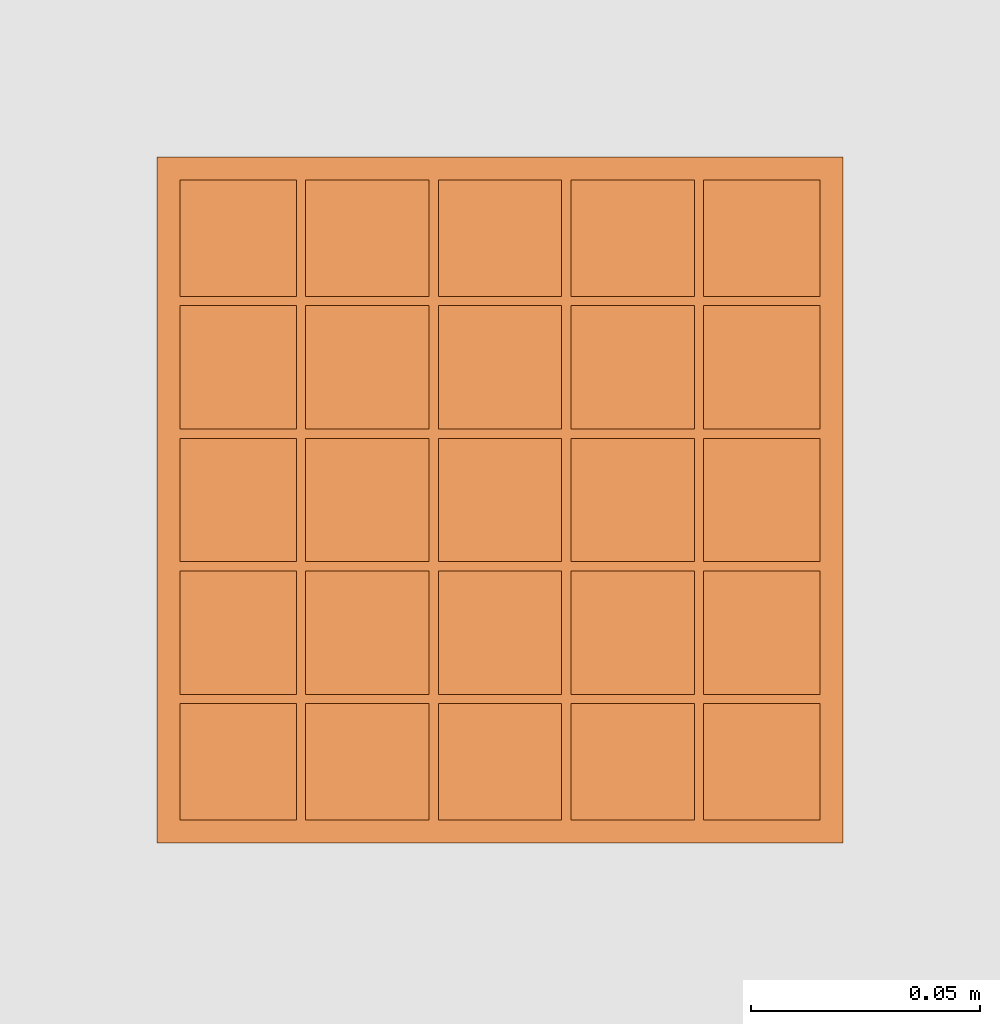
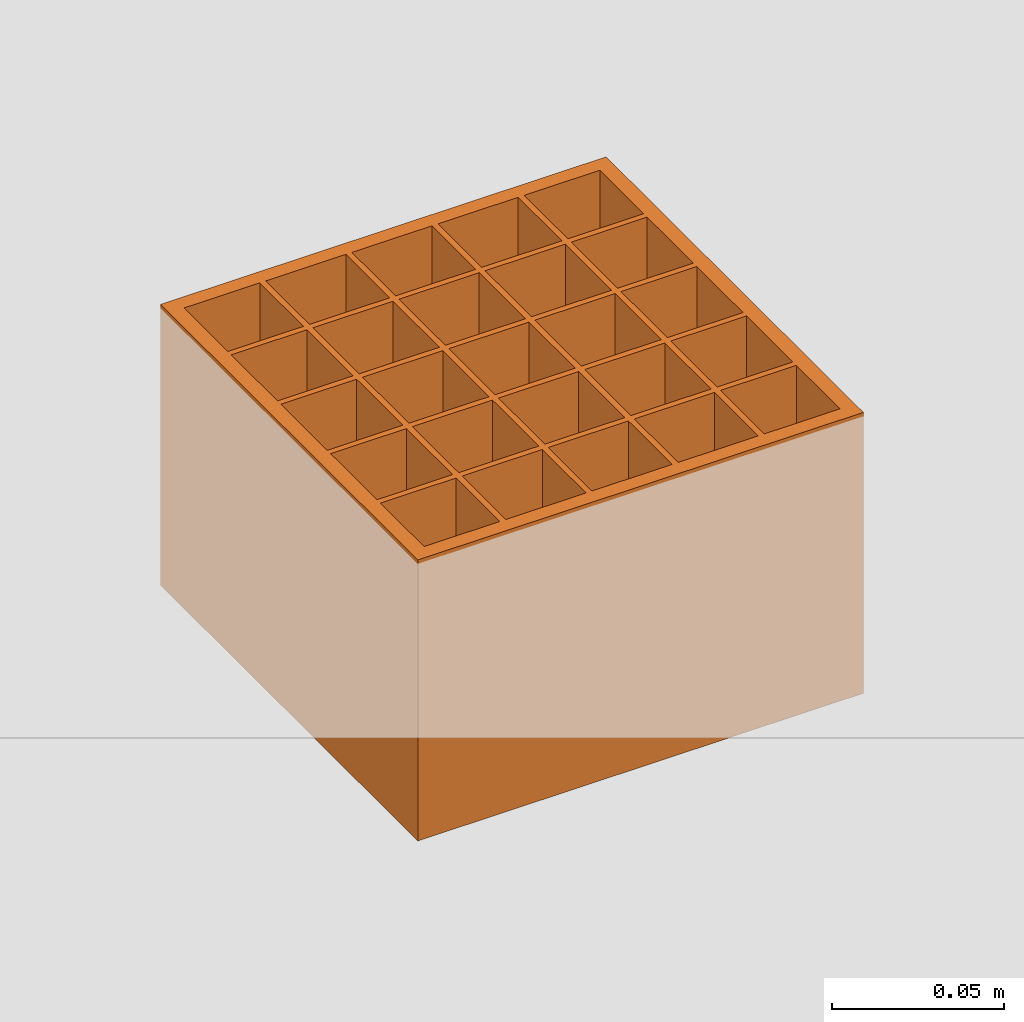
# One storey, part 87 of 112: 1 proxy.
"""IFC2X3 building model written with IfcOpenShell, lengths in millimetres."""

from ifc_helpers import new_model, entity, si_unit, converted_unit, derived_unit, money_unit, direction, frame, origin_with_axes, place, context, subcontext, project, spatial, faceted_brep, source, transform, mapped, type_object, element, save


model = new_model("IFC2X3")

# Units and contexts
model_context = context("Model", 3, precision=0.01, world=origin_with_axes(), true_north=direction((0.0, 1.0)))
body_context = subcontext(model_context, "Body", "Model", "MODEL_VIEW")
ifc_project = project(units=[si_unit("LENGTHUNIT", "METRE", prefix="MILLI"), si_unit("AREAUNIT", "SQUARE_METRE"), si_unit("VOLUMEUNIT", "CUBIC_METRE"), converted_unit("PLANEANGLEUNIT", "DEGREE", entity("IfcPlaneAngleMeasure", 0.0174532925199), si_unit("PLANEANGLEUNIT", "RADIAN"), dimensions=[0, 0, 0, 0, 0, 0, 0]), si_unit("SOLIDANGLEUNIT", "STERADIAN"), money_unit("EUR"), converted_unit("TIMEUNIT", "Year", entity("IfcTimeMeasure", 31556926.0), si_unit("TIMEUNIT", "SECOND"), dimensions=[0, 0, 1, 0, 0, 0, 0]), si_unit("MASSUNIT", "GRAM", prefix="KILO"), si_unit("THERMODYNAMICTEMPERATUREUNIT", "DEGREE_CELSIUS"), si_unit("LUMINOUSINTENSITYUNIT", "LUMEN"), si_unit("ENERGYUNIT", "JOULE", prefix="MEGA"), derived_unit("THERMALCONDUCTANCEUNIT", [(si_unit("POWERUNIT", "WATT"), 1), (si_unit("LENGTHUNIT", "METRE"), -1), (si_unit("THERMODYNAMICTEMPERATUREUNIT", "KELVIN"), -1)]), derived_unit("SPECIFICHEATCAPACITYUNIT", [(si_unit("ENERGYUNIT", "JOULE"), 1), (si_unit("MASSUNIT", "GRAM", prefix="KILO"), -1), (si_unit("THERMODYNAMICTEMPERATUREUNIT", "KELVIN"), -1)]), derived_unit("MASSDENSITYUNIT", [(si_unit("MASSUNIT", "GRAM", prefix="KILO"), 1), (si_unit("VOLUMEUNIT", "CUBIC_METRE"), -1)])], contexts=[model_context])

# Site, building, storey
site_placement = place(None, origin_with_axes())
site = spatial("IfcSite", under=ifc_project, at=site_placement, Name="Politse- ja Piirivalveameti ning Päästeameti ühishoone", CompositionType="ELEMENT")
building_placement = place(site_placement, origin_with_axes())
building = spatial("IfcBuilding", under=site, at=building_placement, Name="Politse- ja Piirivalveameti ning Päästeameti ühishoone", CompositionType="ELEMENT")
storey_placement = place(building_placement, origin_with_axes())
storey = spatial("IfcBuildingStorey", under=building, at=storey_placement, Name="Esimene korrus", CompositionType="ELEMENT", Elevation=0.0)

# Proxy
building_element_proxy_type = type_object("IfcBuildingElementProxyType", Name="Grid 23", PredefinedType="NOTDEFINED")
shared_shape = source(origin_with_axes(), body_context, "Body", "Brep", [
    faceted_brep([(0.0, 0.0, 0.0), (5.0, 5.0, 0.0), (5.0, 5.0, 100.0), (0.0, 0.0, 100.0), (0.0, 150.0, 0.0), (5.0, 145.0, 0.0), (5.0, 119.5, 0.0), (5.0, 117.5, 0.0), (5.0, 90.5, 0.0), (5.0, 88.5, 0.0), (5.0, 61.5, 0.0), (5.0, 59.5, 0.0), (5.0, 32.5, 0.0), (5.0, 30.5, 0.0), (5.0, 30.5, 100.0), (5.0, 32.5, 100.0), (5.0, 59.5, 100.0), (5.0, 61.5, 100.0), (5.0, 88.5, 100.0), (5.0, 90.5, 100.0), (5.0, 117.5, 100.0), (5.0, 119.5, 100.0), (5.0, 145.0, 100.0), (0.0, 150.0, 100.0)], [[[0, 1, 2, 3]], [[0, 4, 5, 6, 7, 8, 9, 10, 11, 12, 13, 1]], [[1, 13, 14, 2]], [[3, 2, 14, 15, 16, 17, 18, 19, 20, 21, 22, 23]], [[4, 0, 3, 23]], [[5, 4, 23, 22]], [[6, 5, 22, 21]], [[7, 6, 21, 20]], [[8, 7, 20, 19]], [[9, 8, 19, 18]], [[10, 9, 18, 17]], [[11, 10, 17, 16]], [[12, 11, 16, 15]], [[13, 12, 15, 14]]]),
    faceted_brep([(150.0, 150.0, 0.0), (145.0, 145.0, 0.0), (145.0, 145.0, 100.0), (150.0, 150.0, 100.0), (150.0, 0.0, 0.0), (145.0, 5.0, 0.0), (145.0, 30.5, 0.0), (145.0, 32.5, 0.0), (145.0, 59.5, 0.0), (145.0, 61.5, 0.0), (145.0, 88.5, 0.0), (145.0, 90.5, 0.0), (145.0, 117.5, 0.0), (145.0, 119.5, 0.0), (145.0, 119.5, 100.0), (145.0, 117.5, 100.0), (145.0, 90.5, 100.0), (145.0, 88.5, 100.0), (145.0, 61.5, 100.0), (145.0, 59.5, 100.0), (145.0, 32.5, 100.0), (145.0, 30.5, 100.0), (145.0, 5.0, 100.0), (150.0, 0.0, 100.0)], [[[0, 1, 2, 3]], [[0, 4, 5, 6, 7, 8, 9, 10, 11, 12, 13, 1]], [[1, 13, 14, 2]], [[3, 2, 14, 15, 16, 17, 18, 19, 20, 21, 22, 23]], [[4, 0, 3, 23]], [[5, 4, 23, 22]], [[6, 5, 22, 21]], [[7, 6, 21, 20]], [[8, 7, 20, 19]], [[9, 8, 19, 18]], [[10, 9, 18, 17]], [[11, 10, 17, 16]], [[12, 11, 16, 15]], [[13, 12, 15, 14]]]),
    faceted_brep([(150.0, 0.0, 0.0), (145.0, 5.0, 0.0), (145.0, 5.0, 100.0), (150.0, 0.0, 100.0), (0.0, 0.0, 0.0), (5.0, 5.0, 0.0), (30.5, 5.0, 0.0), (32.5, 5.0, 0.0), (59.5, 5.0, 0.0), (61.5, 5.0, 0.0), (88.5, 5.0, 0.0), (90.5, 5.0, 0.0), (117.5, 5.0, 0.0), (119.5, 5.0, 0.0), (119.5, 5.0, 100.0), (117.5, 5.0, 100.0), (90.5, 5.0, 100.0), (88.5, 5.0, 100.0), (61.5, 5.0, 100.0), (59.5, 5.0, 100.0), (32.5, 5.0, 100.0), (30.5, 5.0, 100.0), (5.0, 5.0, 100.0), (0.0, 0.0, 100.0)], [[[0, 1, 2, 3]], [[0, 4, 5, 6, 7, 8, 9, 10, 11, 12, 13, 1]], [[1, 13, 14, 2]], [[3, 2, 14, 15, 16, 17, 18, 19, 20, 21, 22, 23]], [[4, 0, 3, 23]], [[5, 4, 23, 22]], [[6, 5, 22, 21]], [[7, 6, 21, 20]], [[8, 7, 20, 19]], [[9, 8, 19, 18]], [[10, 9, 18, 17]], [[11, 10, 17, 16]], [[12, 11, 16, 15]], [[13, 12, 15, 14]]]),
    faceted_brep([(0.0, 150.0, 0.0), (5.0, 145.0, 0.0), (5.0, 145.0, 100.0), (0.0, 150.0, 100.0), (150.0, 150.0, 0.0), (145.0, 145.0, 0.0), (119.5, 145.0, 0.0), (117.5, 145.0, 0.0), (90.5, 145.0, 0.0), (88.5, 145.0, 0.0), (61.5, 145.0, 0.0), (59.5, 145.0, 0.0), (32.5, 145.0, 0.0), (30.5, 145.0, 0.0), (30.5, 145.0, 100.0), (32.5, 145.0, 100.0), (59.5, 145.0, 100.0), (61.5, 145.0, 100.0), (88.5, 145.0, 100.0), (90.5, 145.0, 100.0), (117.5, 145.0, 100.0), (119.5, 145.0, 100.0), (145.0, 145.0, 100.0), (150.0, 150.0, 100.0)], [[[0, 1, 2, 3]], [[0, 4, 5, 6, 7, 8, 9, 10, 11, 12, 13, 1]], [[1, 13, 14, 2]], [[3, 2, 14, 15, 16, 17, 18, 19, 20, 21, 22, 23]], [[4, 0, 3, 23]], [[5, 4, 23, 22]], [[6, 5, 22, 21]], [[7, 6, 21, 20]], [[8, 7, 20, 19]], [[9, 8, 19, 18]], [[10, 9, 18, 17]], [[11, 10, 17, 16]], [[12, 11, 16, 15]], [[13, 12, 15, 14]]]),
    faceted_brep([(30.5, 5.0, 0.0), (32.5, 5.0, 0.0), (32.5, 5.0, 100.0), (30.5, 5.0, 100.0), (30.5, 30.5, 0.0), (30.5, 32.5, 0.0), (30.5, 59.5, 0.0), (30.5, 61.5, 0.0), (30.5, 88.5, 0.0), (30.5, 90.5, 0.0), (30.5, 117.5, 0.0), (30.5, 119.5, 0.0), (30.5, 145.0, 0.0), (32.5, 145.0, 0.0), (32.5, 119.5, 0.0), (32.5, 117.5, 0.0), (32.5, 90.5, 0.0), (32.5, 88.5, 0.0), (32.5, 61.5, 0.0), (32.5, 59.5, 0.0), (32.5, 32.5, 0.0), (32.5, 30.5, 0.0), (32.5, 30.5, 100.0), (32.5, 32.5, 100.0), (32.5, 59.5, 100.0), (32.5, 61.5, 100.0), (32.5, 88.5, 100.0), (32.5, 90.5, 100.0), (32.5, 117.5, 100.0), (32.5, 119.5, 100.0), (32.5, 145.0, 100.0), (30.5, 145.0, 100.0), (30.5, 119.5, 100.0), (30.5, 117.5, 100.0), (30.5, 90.5, 100.0), (30.5, 88.5, 100.0), (30.5, 61.5, 100.0), (30.5, 59.5, 100.0), (30.5, 32.5, 100.0), (30.5, 30.5, 100.0)], [[[0, 1, 2, 3]], [[0, 4, 5, 6, 7, 8, 9, 10, 11, 12, 13, 14, 15, 16, 17, 18, 19, 20, 21, 1]], [[1, 21, 22, 2]], [[3, 2, 22, 23, 24, 25, 26, 27, 28, 29, 30, 31, 32, 33, 34, 35, 36, 37, 38, 39]], [[4, 0, 3, 39]], [[5, 4, 39, 38]], [[6, 5, 38, 37]], [[7, 6, 37, 36]], [[8, 7, 36, 35]], [[9, 8, 35, 34]], [[10, 9, 34, 33]], [[11, 10, 33, 32]], [[12, 11, 32, 31]], [[13, 12, 31, 30]], [[14, 13, 30, 29]], [[15, 14, 29, 28]], [[16, 15, 28, 27]], [[17, 16, 27, 26]], [[18, 17, 26, 25]], [[19, 18, 25, 24]], [[20, 19, 24, 23]], [[21, 20, 23, 22]]]),
    faceted_brep([(59.5, 5.0, 0.0), (61.5, 5.0, 0.0), (61.5, 5.0, 100.0), (59.5, 5.0, 100.0), (59.5, 30.5, 0.0), (59.5, 32.5, 0.0), (59.5, 59.5, 0.0), (59.5, 61.5, 0.0), (59.5, 88.5, 0.0), (59.5, 90.5, 0.0), (59.5, 117.5, 0.0), (59.5, 119.5, 0.0), (59.5, 145.0, 0.0), (61.5, 145.0, 0.0), (61.5, 119.5, 0.0), (61.5, 117.5, 0.0), (61.5, 90.5, 0.0), (61.5, 88.5, 0.0), (61.5, 61.5, 0.0), (61.5, 59.5, 0.0), (61.5, 32.5, 0.0), (61.5, 30.5, 0.0), (61.5, 30.5, 100.0), (61.5, 32.5, 100.0), (61.5, 59.5, 100.0), (61.5, 61.5, 100.0), (61.5, 88.5, 100.0), (61.5, 90.5, 100.0), (61.5, 117.5, 100.0), (61.5, 119.5, 100.0), (61.5, 145.0, 100.0), (59.5, 145.0, 100.0), (59.5, 119.5, 100.0), (59.5, 117.5, 100.0), (59.5, 90.5, 100.0), (59.5, 88.5, 100.0), (59.5, 61.5, 100.0), (59.5, 59.5, 100.0), (59.5, 32.5, 100.0), (59.5, 30.5, 100.0)], [[[0, 1, 2, 3]], [[0, 4, 5, 6, 7, 8, 9, 10, 11, 12, 13, 14, 15, 16, 17, 18, 19, 20, 21, 1]], [[1, 21, 22, 2]], [[3, 2, 22, 23, 24, 25, 26, 27, 28, 29, 30, 31, 32, 33, 34, 35, 36, 37, 38, 39]], [[4, 0, 3, 39]], [[5, 4, 39, 38]], [[6, 5, 38, 37]], [[7, 6, 37, 36]], [[8, 7, 36, 35]], [[9, 8, 35, 34]], [[10, 9, 34, 33]], [[11, 10, 33, 32]], [[12, 11, 32, 31]], [[13, 12, 31, 30]], [[14, 13, 30, 29]], [[15, 14, 29, 28]], [[16, 15, 28, 27]], [[17, 16, 27, 26]], [[18, 17, 26, 25]], [[19, 18, 25, 24]], [[20, 19, 24, 23]], [[21, 20, 23, 22]]]),
    faceted_brep([(88.5, 5.0, 0.0), (90.5, 5.0, 0.0), (90.5, 5.0, 100.0), (88.5, 5.0, 100.0), (88.5, 30.5, 0.0), (88.5, 32.5, 0.0), (88.5, 59.5, 0.0), (88.5, 61.5, 0.0), (88.5, 88.5, 0.0), (88.5, 90.5, 0.0), (88.5, 117.5, 0.0), (88.5, 119.5, 0.0), (88.5, 145.0, 0.0), (90.5, 145.0, 0.0), (90.5, 119.5, 0.0), (90.5, 117.5, 0.0), (90.5, 90.5, 0.0), (90.5, 88.5, 0.0), (90.5, 61.5, 0.0), (90.5, 59.5, 0.0), (90.5, 32.5, 0.0), (90.5, 30.5, 0.0), (90.5, 30.5, 100.0), (90.5, 32.5, 100.0), (90.5, 59.5, 100.0), (90.5, 61.5, 100.0), (90.5, 88.5, 100.0), (90.5, 90.5, 100.0), (90.5, 117.5, 100.0), (90.5, 119.5, 100.0), (90.5, 145.0, 100.0), (88.5, 145.0, 100.0), (88.5, 119.5, 100.0), (88.5, 117.5, 100.0), (88.5, 90.5, 100.0), (88.5, 88.5, 100.0), (88.5, 61.5, 100.0), (88.5, 59.5, 100.0), (88.5, 32.5, 100.0), (88.5, 30.5, 100.0)], [[[0, 1, 2, 3]], [[0, 4, 5, 6, 7, 8, 9, 10, 11, 12, 13, 14, 15, 16, 17, 18, 19, 20, 21, 1]], [[1, 21, 22, 2]], [[3, 2, 22, 23, 24, 25, 26, 27, 28, 29, 30, 31, 32, 33, 34, 35, 36, 37, 38, 39]], [[4, 0, 3, 39]], [[5, 4, 39, 38]], [[6, 5, 38, 37]], [[7, 6, 37, 36]], [[8, 7, 36, 35]], [[9, 8, 35, 34]], [[10, 9, 34, 33]], [[11, 10, 33, 32]], [[12, 11, 32, 31]], [[13, 12, 31, 30]], [[14, 13, 30, 29]], [[15, 14, 29, 28]], [[16, 15, 28, 27]], [[17, 16, 27, 26]], [[18, 17, 26, 25]], [[19, 18, 25, 24]], [[20, 19, 24, 23]], [[21, 20, 23, 22]]]),
    faceted_brep([(117.5, 5.0, 0.0), (119.5, 5.0, 0.0), (119.5, 5.0, 100.0), (117.5, 5.0, 100.0), (117.5, 30.5, 0.0), (117.5, 32.5, 0.0), (117.5, 59.5, 0.0), (117.5, 61.5, 0.0), (117.5, 88.5, 0.0), (117.5, 90.5, 0.0), (117.5, 117.5, 0.0), (117.5, 119.5, 0.0), (117.5, 145.0, 0.0), (119.5, 145.0, 0.0), (119.5, 119.5, 0.0), (119.5, 117.5, 0.0), (119.5, 90.5, 0.0), (119.5, 88.5, 0.0), (119.5, 61.5, 0.0), (119.5, 59.5, 0.0), (119.5, 32.5, 0.0), (119.5, 30.5, 0.0), (119.5, 30.5, 100.0), (119.5, 32.5, 100.0), (119.5, 59.5, 100.0), (119.5, 61.5, 100.0), (119.5, 88.5, 100.0), (119.5, 90.5, 100.0), (119.5, 117.5, 100.0), (119.5, 119.5, 100.0), (119.5, 145.0, 100.0), (117.5, 145.0, 100.0), (117.5, 119.5, 100.0), (117.5, 117.5, 100.0), (117.5, 90.5, 100.0), (117.5, 88.5, 100.0), (117.5, 61.5, 100.0), (117.5, 59.5, 100.0), (117.5, 32.5, 100.0), (117.5, 30.5, 100.0)], [[[0, 1, 2, 3]], [[0, 4, 5, 6, 7, 8, 9, 10, 11, 12, 13, 14, 15, 16, 17, 18, 19, 20, 21, 1]], [[1, 21, 22, 2]], [[3, 2, 22, 23, 24, 25, 26, 27, 28, 29, 30, 31, 32, 33, 34, 35, 36, 37, 38, 39]], [[4, 0, 3, 39]], [[5, 4, 39, 38]], [[6, 5, 38, 37]], [[7, 6, 37, 36]], [[8, 7, 36, 35]], [[9, 8, 35, 34]], [[10, 9, 34, 33]], [[11, 10, 33, 32]], [[12, 11, 32, 31]], [[13, 12, 31, 30]], [[14, 13, 30, 29]], [[15, 14, 29, 28]], [[16, 15, 28, 27]], [[17, 16, 27, 26]], [[18, 17, 26, 25]], [[19, 18, 25, 24]], [[20, 19, 24, 23]], [[21, 20, 23, 22]]]),
    faceted_brep([(30.5, 30.5, 0.0), (30.5, 32.5, 0.0), (30.5, 32.5, 100.0), (30.5, 30.5, 100.0), (5.0, 30.5, 0.0), (5.0, 32.5, 0.0), (5.0, 32.5, 100.0), (5.0, 30.5, 100.0)], [[[0, 1, 2, 3]], [[0, 4, 5, 1]], [[1, 5, 6, 2]], [[3, 2, 6, 7]], [[4, 0, 3, 7]], [[5, 4, 7, 6]]]),
    faceted_brep([(30.5, 59.5, 0.0), (30.5, 61.5, 0.0), (30.5, 61.5, 100.0), (30.5, 59.5, 100.0), (5.0, 59.5, 0.0), (5.0, 61.5, 0.0), (5.0, 61.5, 100.0), (5.0, 59.5, 100.0)], [[[0, 1, 2, 3]], [[0, 4, 5, 1]], [[1, 5, 6, 2]], [[3, 2, 6, 7]], [[4, 0, 3, 7]], [[5, 4, 7, 6]]]),
    faceted_brep([(30.5, 88.5, 0.0), (30.5, 90.5, 0.0), (30.5, 90.5, 100.0), (30.5, 88.5, 100.0), (5.0, 88.5, 0.0), (5.0, 90.5, 0.0), (5.0, 90.5, 100.0), (5.0, 88.5, 100.0)], [[[0, 1, 2, 3]], [[0, 4, 5, 1]], [[1, 5, 6, 2]], [[3, 2, 6, 7]], [[4, 0, 3, 7]], [[5, 4, 7, 6]]]),
    faceted_brep([(30.5, 117.5, 0.0), (30.5, 119.5, 0.0), (30.5, 119.5, 100.0), (30.5, 117.5, 100.0), (5.0, 117.5, 0.0), (5.0, 119.5, 0.0), (5.0, 119.5, 100.0), (5.0, 117.5, 100.0)], [[[0, 1, 2, 3]], [[0, 4, 5, 1]], [[1, 5, 6, 2]], [[3, 2, 6, 7]], [[4, 0, 3, 7]], [[5, 4, 7, 6]]]),
    faceted_brep([(59.5, 30.5, 0.0), (59.5, 32.5, 0.0), (59.5, 32.5, 100.0), (59.5, 30.5, 100.0), (32.5, 30.5, 0.0), (32.5, 32.5, 0.0), (32.5, 32.5, 100.0), (32.5, 30.5, 100.0)], [[[0, 1, 2, 3]], [[0, 4, 5, 1]], [[1, 5, 6, 2]], [[3, 2, 6, 7]], [[4, 0, 3, 7]], [[5, 4, 7, 6]]]),
    faceted_brep([(59.5, 59.5, 0.0), (59.5, 61.5, 0.0), (59.5, 61.5, 100.0), (59.5, 59.5, 100.0), (32.5, 59.5, 0.0), (32.5, 61.5, 0.0), (32.5, 61.5, 100.0), (32.5, 59.5, 100.0)], [[[0, 1, 2, 3]], [[0, 4, 5, 1]], [[1, 5, 6, 2]], [[3, 2, 6, 7]], [[4, 0, 3, 7]], [[5, 4, 7, 6]]]),
    faceted_brep([(59.5, 88.5, 0.0), (59.5, 90.5, 0.0), (59.5, 90.5, 100.0), (59.5, 88.5, 100.0), (32.5, 88.5, 0.0), (32.5, 90.5, 0.0), (32.5, 90.5, 100.0), (32.5, 88.5, 100.0)], [[[0, 1, 2, 3]], [[0, 4, 5, 1]], [[1, 5, 6, 2]], [[3, 2, 6, 7]], [[4, 0, 3, 7]], [[5, 4, 7, 6]]]),
    faceted_brep([(59.5, 117.5, 0.0), (59.5, 119.5, 0.0), (59.5, 119.5, 100.0), (59.5, 117.5, 100.0), (32.5, 117.5, 0.0), (32.5, 119.5, 0.0), (32.5, 119.5, 100.0), (32.5, 117.5, 100.0)], [[[0, 1, 2, 3]], [[0, 4, 5, 1]], [[1, 5, 6, 2]], [[3, 2, 6, 7]], [[4, 0, 3, 7]], [[5, 4, 7, 6]]]),
    faceted_brep([(88.5, 30.5, 0.0), (88.5, 32.5, 0.0), (88.5, 32.5, 100.0), (88.5, 30.5, 100.0), (61.5, 30.5, 0.0), (61.5, 32.5, 0.0), (61.5, 32.5, 100.0), (61.5, 30.5, 100.0)], [[[0, 1, 2, 3]], [[0, 4, 5, 1]], [[1, 5, 6, 2]], [[3, 2, 6, 7]], [[4, 0, 3, 7]], [[5, 4, 7, 6]]]),
    faceted_brep([(88.5, 59.5, 0.0), (88.5, 61.5, 0.0), (88.5, 61.5, 100.0), (88.5, 59.5, 100.0), (61.5, 59.5, 0.0), (61.5, 61.5, 0.0), (61.5, 61.5, 100.0), (61.5, 59.5, 100.0)], [[[0, 1, 2, 3]], [[0, 4, 5, 1]], [[1, 5, 6, 2]], [[3, 2, 6, 7]], [[4, 0, 3, 7]], [[5, 4, 7, 6]]]),
    faceted_brep([(88.5, 88.5, 0.0), (88.5, 90.5, 0.0), (88.5, 90.5, 100.0), (88.5, 88.5, 100.0), (61.5, 88.5, 0.0), (61.5, 90.5, 0.0), (61.5, 90.5, 100.0), (61.5, 88.5, 100.0)], [[[0, 1, 2, 3]], [[0, 4, 5, 1]], [[1, 5, 6, 2]], [[3, 2, 6, 7]], [[4, 0, 3, 7]], [[5, 4, 7, 6]]]),
    faceted_brep([(88.5, 117.5, 0.0), (88.5, 119.5, 0.0), (88.5, 119.5, 100.0), (88.5, 117.5, 100.0), (61.5, 117.5, 0.0), (61.5, 119.5, 0.0), (61.5, 119.5, 100.0), (61.5, 117.5, 100.0)], [[[0, 1, 2, 3]], [[0, 4, 5, 1]], [[1, 5, 6, 2]], [[3, 2, 6, 7]], [[4, 0, 3, 7]], [[5, 4, 7, 6]]]),
    faceted_brep([(117.5, 30.5, 0.0), (117.5, 32.5, 0.0), (117.5, 32.5, 100.0), (117.5, 30.5, 100.0), (90.5, 30.5, 0.0), (90.5, 32.5, 0.0), (90.5, 32.5, 100.0), (90.5, 30.5, 100.0)], [[[0, 1, 2, 3]], [[0, 4, 5, 1]], [[1, 5, 6, 2]], [[3, 2, 6, 7]], [[4, 0, 3, 7]], [[5, 4, 7, 6]]]),
    faceted_brep([(117.5, 59.5, 0.0), (117.5, 61.5, 0.0), (117.5, 61.5, 100.0), (117.5, 59.5, 100.0), (90.5, 59.5, 0.0), (90.5, 61.5, 0.0), (90.5, 61.5, 100.0), (90.5, 59.5, 100.0)], [[[0, 1, 2, 3]], [[0, 4, 5, 1]], [[1, 5, 6, 2]], [[3, 2, 6, 7]], [[4, 0, 3, 7]], [[5, 4, 7, 6]]]),
    faceted_brep([(117.5, 88.5, 0.0), (117.5, 90.5, 0.0), (117.5, 90.5, 100.0), (117.5, 88.5, 100.0), (90.5, 88.5, 0.0), (90.5, 90.5, 0.0), (90.5, 90.5, 100.0), (90.5, 88.5, 100.0)], [[[0, 1, 2, 3]], [[0, 4, 5, 1]], [[1, 5, 6, 2]], [[3, 2, 6, 7]], [[4, 0, 3, 7]], [[5, 4, 7, 6]]]),
    faceted_brep([(117.5, 117.5, 0.0), (117.5, 119.5, 0.0), (117.5, 119.5, 100.0), (117.5, 117.5, 100.0), (90.5, 117.5, 0.0), (90.5, 119.5, 0.0), (90.5, 119.5, 100.0), (90.5, 117.5, 100.0)], [[[0, 1, 2, 3]], [[0, 4, 5, 1]], [[1, 5, 6, 2]], [[3, 2, 6, 7]], [[4, 0, 3, 7]], [[5, 4, 7, 6]]]),
    faceted_brep([(145.0, 30.5, 0.0), (145.0, 32.5, 0.0), (145.0, 32.5, 100.0), (145.0, 30.5, 100.0), (119.5, 30.5, 0.0), (119.5, 32.5, 0.0), (119.5, 32.5, 100.0), (119.5, 30.5, 100.0)], [[[0, 1, 2, 3]], [[0, 4, 5, 1]], [[1, 5, 6, 2]], [[3, 2, 6, 7]], [[4, 0, 3, 7]], [[5, 4, 7, 6]]]),
    faceted_brep([(145.0, 59.5, 0.0), (145.0, 61.5, 0.0), (145.0, 61.5, 100.0), (145.0, 59.5, 100.0), (119.5, 59.5, 0.0), (119.5, 61.5, 0.0), (119.5, 61.5, 100.0), (119.5, 59.5, 100.0)], [[[0, 1, 2, 3]], [[0, 4, 5, 1]], [[1, 5, 6, 2]], [[3, 2, 6, 7]], [[4, 0, 3, 7]], [[5, 4, 7, 6]]]),
    faceted_brep([(145.0, 88.5, 0.0), (145.0, 90.5, 0.0), (145.0, 90.5, 100.0), (145.0, 88.5, 100.0), (119.5, 88.5, 0.0), (119.5, 90.5, 0.0), (119.5, 90.5, 100.0), (119.5, 88.5, 100.0)], [[[0, 1, 2, 3]], [[0, 4, 5, 1]], [[1, 5, 6, 2]], [[3, 2, 6, 7]], [[4, 0, 3, 7]], [[5, 4, 7, 6]]]),
    faceted_brep([(145.0, 117.5, 0.0), (145.0, 119.5, 0.0), (145.0, 119.5, 100.0), (145.0, 117.5, 100.0), (119.5, 117.5, 0.0), (119.5, 119.5, 0.0), (119.5, 119.5, 100.0), (119.5, 117.5, 100.0)], [[[0, 1, 2, 3]], [[0, 4, 5, 1]], [[1, 5, 6, 2]], [[3, 2, 6, 7]], [[4, 0, 3, 7]], [[5, 4, 7, 6]]]),
    faceted_brep([(5.0, 5.0, 43.65), (30.5, 5.0, 43.65), (30.5, 5.0, 56.35), (5.0, 5.0, 56.35), (5.0, 30.5, 43.65), (30.5, 30.5, 43.65), (30.5, 30.5, 56.35), (5.0, 30.5, 56.35)], [[[0, 1, 2, 3]], [[0, 4, 5, 1]], [[1, 5, 6, 2]], [[3, 2, 6, 7]], [[4, 0, 3, 7]], [[5, 4, 7, 6]]]),
    faceted_brep([(5.0, 32.5, 43.65), (30.5, 32.5, 43.65), (30.5, 32.5, 56.35), (5.0, 32.5, 56.35), (5.0, 59.5, 43.65), (30.5, 59.5, 43.65), (30.5, 59.5, 56.35), (5.0, 59.5, 56.35)], [[[0, 1, 2, 3]], [[0, 4, 5, 1]], [[1, 5, 6, 2]], [[3, 2, 6, 7]], [[4, 0, 3, 7]], [[5, 4, 7, 6]]]),
    faceted_brep([(5.0, 61.5, 43.65), (30.5, 61.5, 43.65), (30.5, 61.5, 56.35), (5.0, 61.5, 56.35), (5.0, 88.5, 43.65), (30.5, 88.5, 43.65), (30.5, 88.5, 56.35), (5.0, 88.5, 56.35)], [[[0, 1, 2, 3]], [[0, 4, 5, 1]], [[1, 5, 6, 2]], [[3, 2, 6, 7]], [[4, 0, 3, 7]], [[5, 4, 7, 6]]]),
    faceted_brep([(5.0, 90.5, 43.65), (30.5, 90.5, 43.65), (30.5, 90.5, 56.35), (5.0, 90.5, 56.35), (5.0, 117.5, 43.65), (30.5, 117.5, 43.65), (30.5, 117.5, 56.35), (5.0, 117.5, 56.35)], [[[0, 1, 2, 3]], [[0, 4, 5, 1]], [[1, 5, 6, 2]], [[3, 2, 6, 7]], [[4, 0, 3, 7]], [[5, 4, 7, 6]]]),
    faceted_brep([(5.0, 119.5, 43.65), (30.5, 119.5, 43.65), (30.5, 119.5, 56.35), (5.0, 119.5, 56.35), (5.0, 145.0, 43.65), (30.5, 145.0, 43.65), (30.5, 145.0, 56.35), (5.0, 145.0, 56.35)], [[[0, 1, 2, 3]], [[0, 4, 5, 1]], [[1, 5, 6, 2]], [[3, 2, 6, 7]], [[4, 0, 3, 7]], [[5, 4, 7, 6]]]),
    faceted_brep([(32.5, 5.0, 43.65), (59.5, 5.0, 43.65), (59.5, 5.0, 56.35), (32.5, 5.0, 56.35), (32.5, 30.5, 43.65), (59.5, 30.5, 43.65), (59.5, 30.5, 56.35), (32.5, 30.5, 56.35)], [[[0, 1, 2, 3]], [[0, 4, 5, 1]], [[1, 5, 6, 2]], [[3, 2, 6, 7]], [[4, 0, 3, 7]], [[5, 4, 7, 6]]]),
    faceted_brep([(32.5, 32.5, 43.65), (59.5, 32.5, 43.65), (59.5, 32.5, 56.35), (32.5, 32.5, 56.35), (32.5, 59.5, 43.65), (59.5, 59.5, 43.65), (59.5, 59.5, 56.35), (32.5, 59.5, 56.35)], [[[0, 1, 2, 3]], [[0, 4, 5, 1]], [[1, 5, 6, 2]], [[3, 2, 6, 7]], [[4, 0, 3, 7]], [[5, 4, 7, 6]]]),
    faceted_brep([(32.5, 61.5, 43.65), (59.5, 61.5, 43.65), (59.5, 61.5, 56.35), (32.5, 61.5, 56.35), (32.5, 88.5, 43.65), (59.5, 88.5, 43.65), (59.5, 88.5, 56.35), (32.5, 88.5, 56.35)], [[[0, 1, 2, 3]], [[0, 4, 5, 1]], [[1, 5, 6, 2]], [[3, 2, 6, 7]], [[4, 0, 3, 7]], [[5, 4, 7, 6]]]),
    faceted_brep([(32.5, 90.5, 43.65), (59.5, 90.5, 43.65), (59.5, 90.5, 56.35), (32.5, 90.5, 56.35), (32.5, 117.5, 43.65), (59.5, 117.5, 43.65), (59.5, 117.5, 56.35), (32.5, 117.5, 56.35)], [[[0, 1, 2, 3]], [[0, 4, 5, 1]], [[1, 5, 6, 2]], [[3, 2, 6, 7]], [[4, 0, 3, 7]], [[5, 4, 7, 6]]]),
    faceted_brep([(32.5, 119.5, 43.65), (59.5, 119.5, 43.65), (59.5, 119.5, 56.35), (32.5, 119.5, 56.35), (32.5, 145.0, 43.65), (59.5, 145.0, 43.65), (59.5, 145.0, 56.35), (32.5, 145.0, 56.35)], [[[0, 1, 2, 3]], [[0, 4, 5, 1]], [[1, 5, 6, 2]], [[3, 2, 6, 7]], [[4, 0, 3, 7]], [[5, 4, 7, 6]]]),
    faceted_brep([(61.5, 5.0, 43.65), (88.5, 5.0, 43.65), (88.5, 5.0, 56.35), (61.5, 5.0, 56.35), (61.5, 30.5, 43.65), (88.5, 30.5, 43.65), (88.5, 30.5, 56.35), (61.5, 30.5, 56.35)], [[[0, 1, 2, 3]], [[0, 4, 5, 1]], [[1, 5, 6, 2]], [[3, 2, 6, 7]], [[4, 0, 3, 7]], [[5, 4, 7, 6]]]),
    faceted_brep([(61.5, 32.5, 43.65), (88.5, 32.5, 43.65), (88.5, 32.5, 56.35), (61.5, 32.5, 56.35), (61.5, 59.5, 43.65), (88.5, 59.5, 43.65), (88.5, 59.5, 56.35), (61.5, 59.5, 56.35)], [[[0, 1, 2, 3]], [[0, 4, 5, 1]], [[1, 5, 6, 2]], [[3, 2, 6, 7]], [[4, 0, 3, 7]], [[5, 4, 7, 6]]]),
    faceted_brep([(61.5, 61.5, 43.65), (88.5, 61.5, 43.65), (88.5, 61.5, 56.35), (61.5, 61.5, 56.35), (61.5, 88.5, 43.65), (88.5, 88.5, 43.65), (88.5, 88.5, 56.35), (61.5, 88.5, 56.35)], [[[0, 1, 2, 3]], [[0, 4, 5, 1]], [[1, 5, 6, 2]], [[3, 2, 6, 7]], [[4, 0, 3, 7]], [[5, 4, 7, 6]]]),
    faceted_brep([(61.5, 90.5, 43.65), (88.5, 90.5, 43.65), (88.5, 90.5, 56.35), (61.5, 90.5, 56.35), (61.5, 117.5, 43.65), (88.5, 117.5, 43.65), (88.5, 117.5, 56.35), (61.5, 117.5, 56.35)], [[[0, 1, 2, 3]], [[0, 4, 5, 1]], [[1, 5, 6, 2]], [[3, 2, 6, 7]], [[4, 0, 3, 7]], [[5, 4, 7, 6]]]),
    faceted_brep([(61.5, 119.5, 43.65), (88.5, 119.5, 43.65), (88.5, 119.5, 56.35), (61.5, 119.5, 56.35), (61.5, 145.0, 43.65), (88.5, 145.0, 43.65), (88.5, 145.0, 56.35), (61.5, 145.0, 56.35)], [[[0, 1, 2, 3]], [[0, 4, 5, 1]], [[1, 5, 6, 2]], [[3, 2, 6, 7]], [[4, 0, 3, 7]], [[5, 4, 7, 6]]]),
    faceted_brep([(90.5, 5.0, 43.65), (117.5, 5.0, 43.65), (117.5, 5.0, 56.35), (90.5, 5.0, 56.35), (90.5, 30.5, 43.65), (117.5, 30.5, 43.65), (117.5, 30.5, 56.35), (90.5, 30.5, 56.35)], [[[0, 1, 2, 3]], [[0, 4, 5, 1]], [[1, 5, 6, 2]], [[3, 2, 6, 7]], [[4, 0, 3, 7]], [[5, 4, 7, 6]]]),
    faceted_brep([(90.5, 32.5, 43.65), (117.5, 32.5, 43.65), (117.5, 32.5, 56.35), (90.5, 32.5, 56.35), (90.5, 59.5, 43.65), (117.5, 59.5, 43.65), (117.5, 59.5, 56.35), (90.5, 59.5, 56.35)], [[[0, 1, 2, 3]], [[0, 4, 5, 1]], [[1, 5, 6, 2]], [[3, 2, 6, 7]], [[4, 0, 3, 7]], [[5, 4, 7, 6]]]),
    faceted_brep([(90.5, 61.5, 43.65), (117.5, 61.5, 43.65), (117.5, 61.5, 56.35), (90.5, 61.5, 56.35), (90.5, 88.5, 43.65), (117.5, 88.5, 43.65), (117.5, 88.5, 56.35), (90.5, 88.5, 56.35)], [[[0, 1, 2, 3]], [[0, 4, 5, 1]], [[1, 5, 6, 2]], [[3, 2, 6, 7]], [[4, 0, 3, 7]], [[5, 4, 7, 6]]]),
    faceted_brep([(90.5, 90.5, 43.65), (117.5, 90.5, 43.65), (117.5, 90.5, 56.35), (90.5, 90.5, 56.35), (90.5, 117.5, 43.65), (117.5, 117.5, 43.65), (117.5, 117.5, 56.35), (90.5, 117.5, 56.35)], [[[0, 1, 2, 3]], [[0, 4, 5, 1]], [[1, 5, 6, 2]], [[3, 2, 6, 7]], [[4, 0, 3, 7]], [[5, 4, 7, 6]]]),
    faceted_brep([(90.5, 119.5, 43.65), (117.5, 119.5, 43.65), (117.5, 119.5, 56.35), (90.5, 119.5, 56.35), (90.5, 145.0, 43.65), (117.5, 145.0, 43.65), (117.5, 145.0, 56.35), (90.5, 145.0, 56.35)], [[[0, 1, 2, 3]], [[0, 4, 5, 1]], [[1, 5, 6, 2]], [[3, 2, 6, 7]], [[4, 0, 3, 7]], [[5, 4, 7, 6]]]),
    faceted_brep([(119.5, 5.0, 43.65), (145.0, 5.0, 43.65), (145.0, 5.0, 56.35), (119.5, 5.0, 56.35), (119.5, 30.5, 43.65), (145.0, 30.5, 43.65), (145.0, 30.5, 56.35), (119.5, 30.5, 56.35)], [[[0, 1, 2, 3]], [[0, 4, 5, 1]], [[1, 5, 6, 2]], [[3, 2, 6, 7]], [[4, 0, 3, 7]], [[5, 4, 7, 6]]]),
    faceted_brep([(119.5, 32.5, 43.65), (145.0, 32.5, 43.65), (145.0, 32.5, 56.35), (119.5, 32.5, 56.35), (119.5, 59.5, 43.65), (145.0, 59.5, 43.65), (145.0, 59.5, 56.35), (119.5, 59.5, 56.35)], [[[0, 1, 2, 3]], [[0, 4, 5, 1]], [[1, 5, 6, 2]], [[3, 2, 6, 7]], [[4, 0, 3, 7]], [[5, 4, 7, 6]]]),
    faceted_brep([(119.5, 61.5, 43.65), (145.0, 61.5, 43.65), (145.0, 61.5, 56.35), (119.5, 61.5, 56.35), (119.5, 88.5, 43.65), (145.0, 88.5, 43.65), (145.0, 88.5, 56.35), (119.5, 88.5, 56.35)], [[[0, 1, 2, 3]], [[0, 4, 5, 1]], [[1, 5, 6, 2]], [[3, 2, 6, 7]], [[4, 0, 3, 7]], [[5, 4, 7, 6]]]),
    faceted_brep([(119.5, 90.5, 43.65), (145.0, 90.5, 43.65), (145.0, 90.5, 56.35), (119.5, 90.5, 56.35), (119.5, 117.5, 43.65), (145.0, 117.5, 43.65), (145.0, 117.5, 56.35), (119.5, 117.5, 56.35)], [[[0, 1, 2, 3]], [[0, 4, 5, 1]], [[1, 5, 6, 2]], [[3, 2, 6, 7]], [[4, 0, 3, 7]], [[5, 4, 7, 6]]]),
    faceted_brep([(119.5, 119.5, 43.65), (145.0, 119.5, 43.65), (145.0, 119.5, 56.35), (119.5, 119.5, 56.35), (119.5, 145.0, 43.65), (145.0, 145.0, 43.65), (145.0, 145.0, 56.35), (119.5, 145.0, 56.35)], [[[0, 1, 2, 3]], [[0, 4, 5, 1]], [[1, 5, 6, 2]], [[3, 2, 6, 7]], [[4, 0, 3, 7]], [[5, 4, 7, 6]]]),
])
proxy_placement = place(storey_placement, frame((45481.7157461, 13660.772581, -100.0), z_axis=(0.0, 0.0, 1.0), x_axis=(1.0, 0.0, 0.0)))
element("IfcBuildingElementProxy", 1, at=proxy_placement, inside=storey, type_object=building_element_proxy_type, Name="Trapp (124)", context=body_context, shape_type="MappedRepresentation", body=[
    mapped(shared_shape, transform((0.0, 0.0, 0.0))),
])

save(model, "model.ifc")
